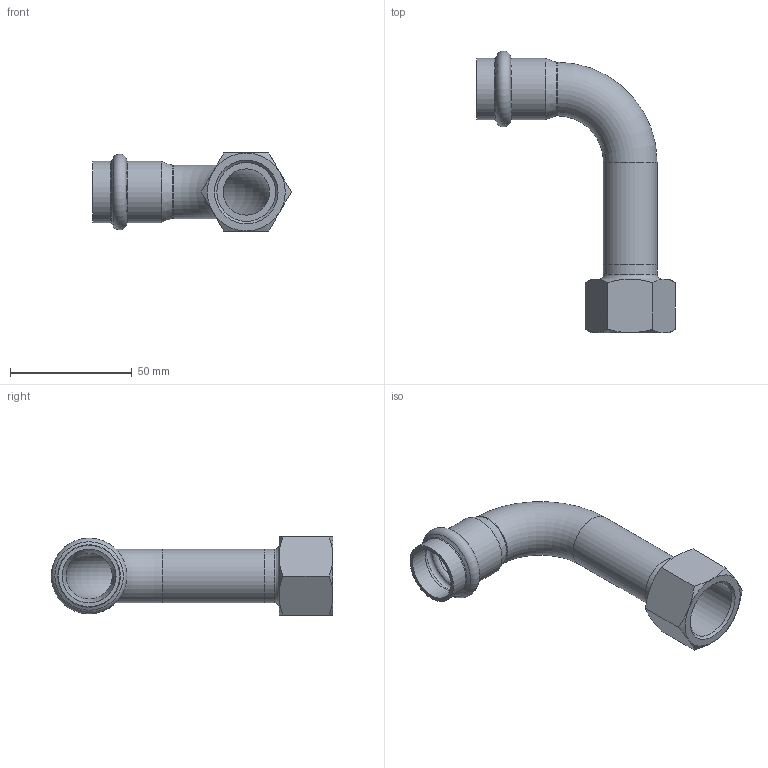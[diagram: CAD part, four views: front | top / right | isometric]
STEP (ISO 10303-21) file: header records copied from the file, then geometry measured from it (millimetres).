
FILE_DESCRIPTION((''),'2;1');
FILE_NAME('G:\Technics\CAD\Bauteile\022\69002G2234(1).stp','2008-02-18T10:50:33',('herberg'),(''),'Autodesk Inventor 2008','Autodesk Inventor 2008','');
FILE_SCHEMA(('AUTOMOTIVE_DESIGN { 1 0 10303 214 1 1 1 1 }'));
Length unit declared in the file: millimetre
Products named in the file (3): 69002G2234(1); 69001A22(2); IG2234(1)
Assembly tree (2 placements, depth 2):
  69002G2234(1)
    69001A22(2)
    IG2234(1)
Bounding box: 81.48 x 115.55 x 32 mm (x, y, z)
Volume: 23258.8 mm3; surface area: 23055.1 mm2
Topology: 2 solids, 2 shells, 49 faces, 103 edges, 60 vertices
Faces by surface type: cone 17, plane 11, cylinder 9, bspline 8, torus 4
Full cylindrical faces by diameter (mm): 19 x2, 22 x3, 22.15 x2, 25.15 x2
Entity records: 1404 total; most frequent: CARTESIAN_POINT 485, DIRECTION 182, ORIENTED_EDGE 144, AXIS2_PLACEMENT_3D 88, EDGE_LOOP 80, EDGE_CURVE 72, VERTEX_POINT 54, FACE_OUTER_BOUND 49
